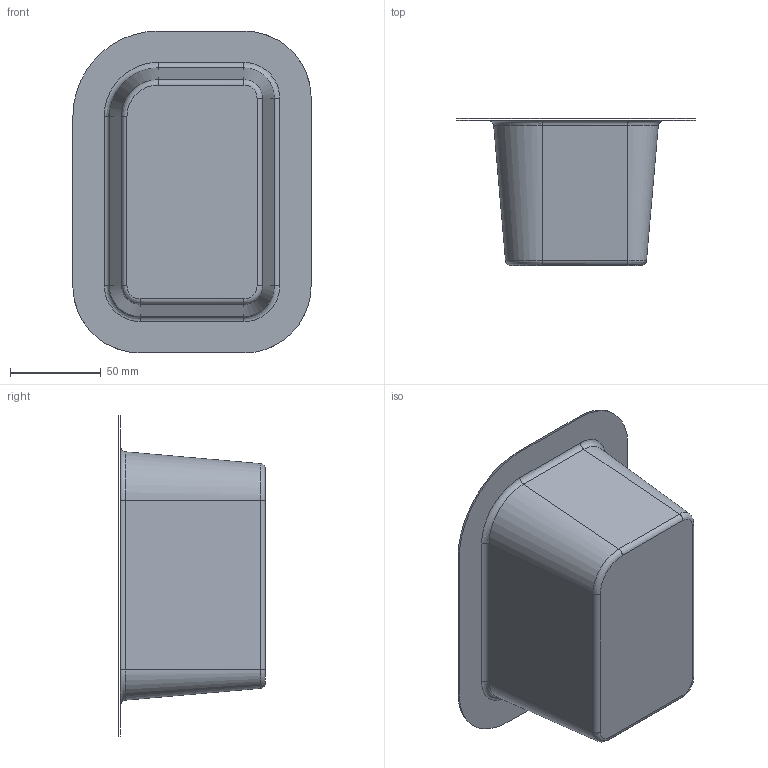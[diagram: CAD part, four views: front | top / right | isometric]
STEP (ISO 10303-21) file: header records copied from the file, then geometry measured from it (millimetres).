
FILE_DESCRIPTION(('CATIA V5 STEP Exchange'),'2;1');
FILE_NAME('C:\_Andres\UNIVERSIDAD\IQS\ASIGNATURAS\DAO\Controles\1617\c3\2inicio\Perez_Pellicer_control3_v23.stp','2017-02-17T14:22:10+00:00',('none'),('none'),'CATIA Version 5-6 Release 2014 SP1 HF18','CATIA V5 STEP AP203','none');
FILE_SCHEMA(('CONFIG_CONTROL_DESIGN'));
Length unit declared in the file: millimetre
Products named in the file (1): Perez_Pellicer_control3_v23
Bounding box: 130.94 x 80.7 x 176.94 mm (x, y, z)
Surface area: 72037.6 mm2 (no closed solid volume)
Topology: 0 solids, 2 shells, 27 faces, 80 edges, 57 vertices
Faces by surface type: bspline 16, cylinder 8, plane 3
Entity records: 1925 total; most frequent: CARTESIAN_POINT 1329, ORIENTED_EDGE 128, EDGE_CURVE 72, B_SPLINE_CURVE_WITH_KNOTS 54, DIRECTION 50, VERTEX_POINT 48, EDGE_LOOP 28, ADVANCED_FACE 27
